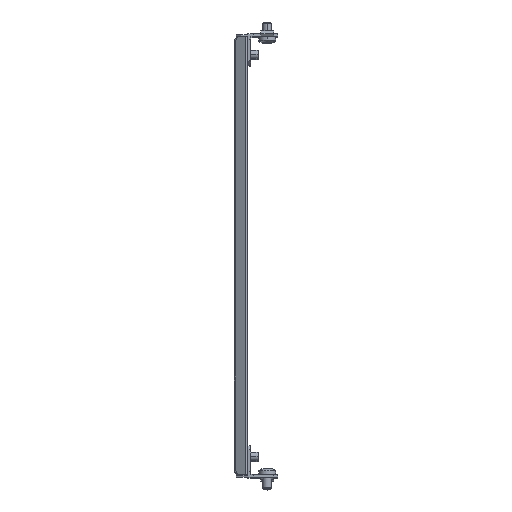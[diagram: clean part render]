
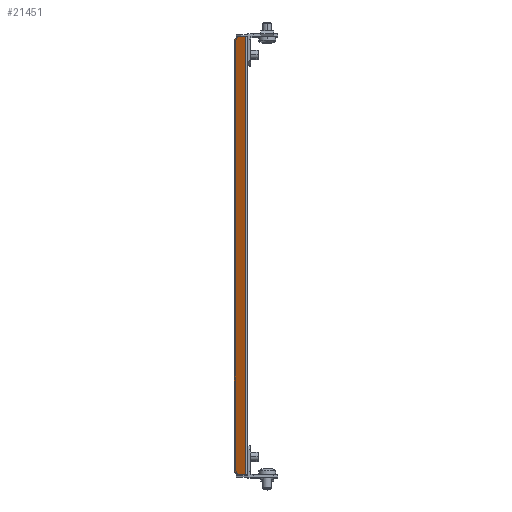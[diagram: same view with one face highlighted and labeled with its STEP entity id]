
A CAD part, top view. The second image highlights one B-rep face of the part: STEP entity #21451.
In plain terms, the highlighted planar face has unit normal (-0.5, 0, 0.866).
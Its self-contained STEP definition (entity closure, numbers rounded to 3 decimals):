
#118 = DIRECTION ( 'NONE',  ( 0.612, -0.707, 0.354 ) ) ;
#229 = DIRECTION ( 'NONE',  ( 0.866, 0., 0.5 ) ) ;
#914 = VERTEX_POINT ( 'NONE', #4620 ) ;
#928 = VECTOR ( 'NONE', #118, 1000. ) ;
#1883 = LINE ( 'NONE', #14517, #14878 ) ;
#2215 = VERTEX_POINT ( 'NONE', #4022 ) ;
#3158 = CARTESIAN_POINT ( 'NONE',  ( -9.525, 152., 244.331 ) ) ;
#3244 = CARTESIAN_POINT ( 'NONE',  ( -3.75, -152., 247.665 ) ) ;
#3586 = LINE ( 'NONE', #24035, #25362 ) ;
#4000 = EDGE_CURVE ( 'NONE', #14750, #2215, #7430, .T. ) ;
#4022 = CARTESIAN_POINT ( 'NONE',  ( -6.927, -152., 245.831 ) ) ;
#4321 = CARTESIAN_POINT ( 'NONE',  ( -107.213, 0., 187.931 ) ) ;
#4456 = EDGE_CURVE ( 'NONE', #19617, #6385, #10313, .T. ) ;
#4530 = CARTESIAN_POINT ( 'NONE',  ( -2.25, 152., 248.531 ) ) ;
#4550 = CARTESIAN_POINT ( 'NONE',  ( -122.888, -18.1, 178.881 ) ) ;
#4620 = CARTESIAN_POINT ( 'NONE',  ( -9.525, 149., 244.331 ) ) ;
#4682 = EDGE_CURVE ( 'NONE', #19617, #914, #3586, .T. ) ;
#6385 = VERTEX_POINT ( 'NONE', #24275 ) ;
#6662 = VECTOR ( 'NONE', #9457, 1000. ) ;
#6815 = ORIENTED_EDGE ( 'NONE', *, *, #19932, .T. ) ;
#6914 = CARTESIAN_POINT ( 'NONE',  ( -9.525, -149., 244.331 ) ) ;
#7430 = LINE ( 'NONE', #24109, #24059 ) ;
#7771 = ORIENTED_EDGE ( 'NONE', *, *, #8471, .F. ) ;
#7834 = VECTOR ( 'NONE', #17376, 1000. ) ;
#8234 = FACE_OUTER_BOUND ( 'NONE', #8399, .T. ) ;
#8399 = EDGE_LOOP ( 'NONE', ( #6815, #10493, #22665, #20474, #20342, #7771, #13210, #13658 ) ) ;
#8471 = EDGE_CURVE ( 'NONE', #21136, #914, #9192, .T. ) ;
#9192 = LINE ( 'NONE', #3158, #7834 ) ;
#9457 = DIRECTION ( 'NONE',  ( 0.866, 0., 0.5 ) ) ;
#10313 = LINE ( 'NONE', #4530, #21918 ) ;
#10335 = LINE ( 'NONE', #4550, #928 ) ;
#10493 = ORIENTED_EDGE ( 'NONE', *, *, #16313, .T. ) ;
#10515 = CARTESIAN_POINT ( 'NONE',  ( -3.75, -152., 247.665 ) ) ;
#10893 = LINE ( 'NONE', #3244, #25385 ) ;
#11417 = DIRECTION ( 'NONE',  ( 0.866, 0., 0.5 ) ) ;
#12392 = DIRECTION ( 'NONE',  ( -0.5, 0., 0.866 ) ) ;
#13210 = ORIENTED_EDGE ( 'NONE', *, *, #20258, .T. ) ;
#13605 = CARTESIAN_POINT ( 'NONE',  ( -6.927, 152., 245.831 ) ) ;
#13658 = ORIENTED_EDGE ( 'NONE', *, *, #4000, .F. ) ;
#13863 = DIRECTION ( 'NONE',  ( -0.866, 0., -0.5 ) ) ;
#14517 = CARTESIAN_POINT ( 'NONE',  ( -1.732, 0., 248.83 ) ) ;
#14642 = DIRECTION ( 'NONE',  ( 0., 1., 0. ) ) ;
#14750 = VERTEX_POINT ( 'NONE', #10515 ) ;
#14878 = VECTOR ( 'NONE', #14642, 1000. ) ;
#15853 = CARTESIAN_POINT ( 'NONE',  ( -1.732, -152., 248.83 ) ) ;
#16313 = EDGE_CURVE ( 'NONE', #24535, #25411, #1883, .T. ) ;
#16407 = DIRECTION ( 'NONE',  ( 0., 1., 0. ) ) ;
#17376 = DIRECTION ( 'NONE',  ( 0., 1., 0. ) ) ;
#17710 = AXIS2_PLACEMENT_3D ( 'NONE', #4321, #12392, #16407 ) ;
#19617 = VERTEX_POINT ( 'NONE', #13605 ) ;
#19706 = CARTESIAN_POINT ( 'NONE',  ( -1.732, 152., 248.83 ) ) ;
#19932 = EDGE_CURVE ( 'NONE', #14750, #24535, #10893, .T. ) ;
#20258 = EDGE_CURVE ( 'NONE', #21136, #2215, #10335, .T. ) ;
#20342 = ORIENTED_EDGE ( 'NONE', *, *, #4682, .T. ) ;
#20474 = ORIENTED_EDGE ( 'NONE', *, *, #4456, .F. ) ;
#21136 = VERTEX_POINT ( 'NONE', #6914 ) ;
#21451 = ADVANCED_FACE ( 'NONE', ( #8234 ), #24908, .T. ) ;
#21918 = VECTOR ( 'NONE', #229, 1000. ) ;
#22665 = ORIENTED_EDGE ( 'NONE', *, *, #22738, .F. ) ;
#22738 = EDGE_CURVE ( 'NONE', #6385, #25411, #23727, .T. ) ;
#23597 = CARTESIAN_POINT ( 'NONE',  ( -107.213, 152., 187.931 ) ) ;
#23727 = LINE ( 'NONE', #23597, #6662 ) ;
#24035 = CARTESIAN_POINT ( 'NONE',  ( -122.888, 18.1, 178.881 ) ) ;
#24059 = VECTOR ( 'NONE', #13863, 1000. ) ;
#24109 = CARTESIAN_POINT ( 'NONE',  ( -9.525, -152., 244.331 ) ) ;
#24275 = CARTESIAN_POINT ( 'NONE',  ( -3.75, 152., 247.665 ) ) ;
#24535 = VERTEX_POINT ( 'NONE', #15853 ) ;
#24908 = PLANE ( 'NONE',  #17710 ) ;
#25362 = VECTOR ( 'NONE', #25896, 1000. ) ;
#25385 = VECTOR ( 'NONE', #11417, 1000. ) ;
#25411 = VERTEX_POINT ( 'NONE', #19706 ) ;
#25896 = DIRECTION ( 'NONE',  ( -0.612, -0.707, -0.354 ) ) ;
